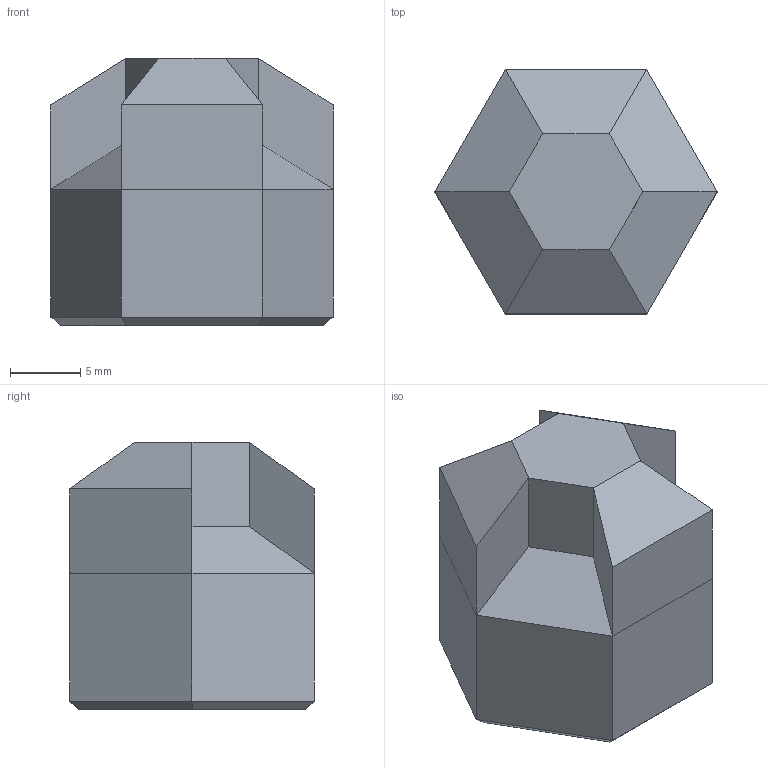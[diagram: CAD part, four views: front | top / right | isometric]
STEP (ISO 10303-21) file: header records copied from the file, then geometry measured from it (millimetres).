
FILE_DESCRIPTION(/* description */ (''),/* implementation_level */ '2;1');
FILE_NAME(/* name */ 'hnefatafl_king',/* time_stamp */ '2024-08-03T13:46:00+02:00',/* author */ (''),/* organization */ (''),/* preprocessor_version */ 'ST-DEVELOPER v19.2',/* originating_system */ 'Rhino 8.11',/* authorisation */ '');
FILE_SCHEMA (('CONFIG_CONTROL_DESIGN'));
Length unit declared in the file: millimetre
Products named in the file (1): Document
Bounding box: 20.07 x 17.38 x 19 mm (x, y, z)
Volume: 3974.5 mm3; surface area: 1588.7 mm2
Topology: 1 solids, 1 shells, 32 faces, 66 edges, 36 vertices
Faces by surface type: plane 32
Entity records: 846 total; most frequent: CARTESIAN_POINT 262, ORIENTED_EDGE 132, EDGE_CURVE 66, B_SPLINE_CURVE_WITH_KNOTS 66, VERTEX_POINT 36, DIRECTION 36, AXIS2_PLACEMENT_3D 34, ADVANCED_FACE 32
